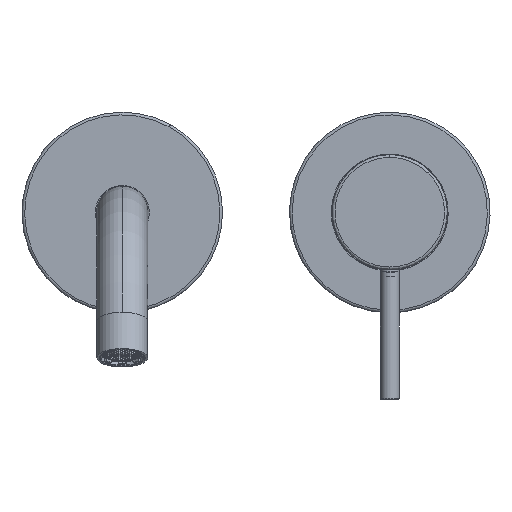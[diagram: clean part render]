
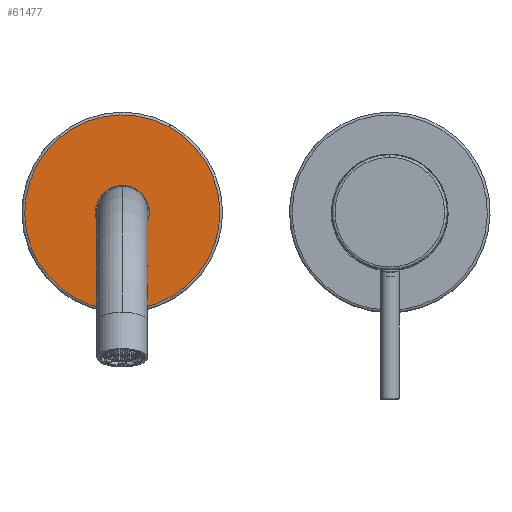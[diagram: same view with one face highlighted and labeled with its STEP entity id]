
A CAD part, top view. The second image highlights one B-rep face of the part: STEP entity #61477.
In plain terms, the highlighted planar face has unit normal (0, 0, 1).
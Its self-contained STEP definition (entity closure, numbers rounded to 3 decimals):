
#5108 = EDGE_CURVE ( 'NONE', #81041, #18416, #18808, .T. ) ;
#7030 = DIRECTION ( 'NONE',  ( 1., 0., 0. ) ) ;
#8556 = DIRECTION ( 'NONE',  ( 0., 0., -1. ) ) ;
#9135 = VERTEX_POINT ( 'NONE', #48063 ) ;
#12124 = CIRCLE ( 'NONE', #19817, 36.5 ) ;
#15946 = DIRECTION ( 'NONE',  ( 0., 0., -1. ) ) ;
#16044 = ORIENTED_EDGE ( 'NONE', *, *, #41706, .T. ) ;
#18147 = AXIS2_PLACEMENT_3D ( 'NONE', #29489, #15946, #22875 ) ;
#18416 = VERTEX_POINT ( 'NONE', #62894 ) ;
#18808 = CIRCLE ( 'NONE', #27323, 10.1 ) ;
#19817 = AXIS2_PLACEMENT_3D ( 'NONE', #63548, #50274, #7030 ) ;
#22875 = DIRECTION ( 'NONE',  ( 1., 0., 0. ) ) ;
#27323 = AXIS2_PLACEMENT_3D ( 'NONE', #37265, #8556, #44531 ) ;
#29489 = CARTESIAN_POINT ( 'NONE',  ( 0., 0., 8. ) ) ;
#30556 = EDGE_CURVE ( 'NONE', #9135, #62047, #12124, .T. ) ;
#31121 = DIRECTION ( 'NONE',  ( 0., 0., -1. ) ) ;
#32105 = CIRCLE ( 'NONE', #18147, 36.5 ) ;
#33606 = ORIENTED_EDGE ( 'NONE', *, *, #54575, .F. ) ;
#33846 = DIRECTION ( 'NONE',  ( 0., 0., -1. ) ) ;
#34772 = CARTESIAN_POINT ( 'NONE',  ( 0., -9.6, 8. ) ) ;
#37265 = CARTESIAN_POINT ( 'NONE',  ( 0., 0., 8. ) ) ;
#37480 = CARTESIAN_POINT ( 'NONE',  ( 0., 0., 8. ) ) ;
#41706 = EDGE_CURVE ( 'NONE', #18416, #81041, #45857, .T. ) ;
#44531 = DIRECTION ( 'NONE',  ( 1., 0., 0. ) ) ;
#45857 = CIRCLE ( 'NONE', #53136, 10.1 ) ;
#48063 = CARTESIAN_POINT ( 'NONE',  ( 17.499, 32.032, 8. ) ) ;
#48553 = ORIENTED_EDGE ( 'NONE', *, *, #30556, .F. ) ;
#49633 = CARTESIAN_POINT ( 'NONE',  ( 4.842, 8.864, 8. ) ) ;
#50274 = DIRECTION ( 'NONE',  ( 0., 0., -1. ) ) ;
#53136 = AXIS2_PLACEMENT_3D ( 'NONE', #37480, #31121, #88062 ) ;
#54575 = EDGE_CURVE ( 'NONE', #62047, #9135, #32105, .T. ) ;
#55274 = EDGE_LOOP ( 'NONE', ( #66503, #16044 ) ) ;
#56583 = DIRECTION ( 'NONE',  ( -1., 0., 0. ) ) ;
#59805 = EDGE_LOOP ( 'NONE', ( #48553, #33606 ) ) ;
#61477 = ADVANCED_FACE ( 'NONE', ( #83372, #92474 ), #69841, .F. ) ;
#62047 = VERTEX_POINT ( 'NONE', #66243 ) ;
#62894 = CARTESIAN_POINT ( 'NONE',  ( -4.842, -8.864, 8. ) ) ;
#63548 = CARTESIAN_POINT ( 'NONE',  ( 0., 0., 8. ) ) ;
#66243 = CARTESIAN_POINT ( 'NONE',  ( -17.499, -32.032, 8. ) ) ;
#66503 = ORIENTED_EDGE ( 'NONE', *, *, #5108, .T. ) ;
#69841 = PLANE ( 'NONE',  #86399 ) ;
#81041 = VERTEX_POINT ( 'NONE', #49633 ) ;
#83372 = FACE_OUTER_BOUND ( 'NONE', #59805, .T. ) ;
#86399 = AXIS2_PLACEMENT_3D ( 'NONE', #34772, #33846, #56583 ) ;
#88062 = DIRECTION ( 'NONE',  ( 1., 0., 0. ) ) ;
#92474 = FACE_BOUND ( 'NONE', #55274, .T. ) ;
